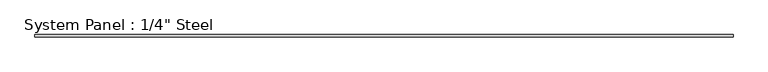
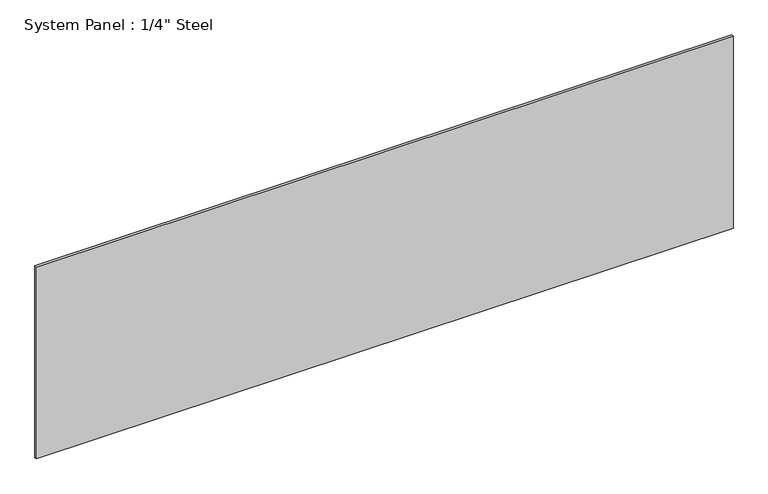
"""IFC4 building model written with IfcOpenShell, lengths in millimetres: plate geometry."""

from ifc_helpers import new_model, si_unit, origin, origin_with_axes, place, context, project, spatial, polyline, outline, extrude, source, transform, mapped, element, save


def plate_829ba8d5(model_context):
    return source(origin(), model_context, "Body", "SweptSolid", [
        extrude(outline(polyline([(916.1655423, -3.175), (-916.1655423, -3.175), (-916.1655423, 3.175), (916.1655423, 3.175), (916.1655423, -3.175)])), origin_with_axes(), (0.0, 0.0, 1.0), 533.4),
    ])


if __name__ == "__main__":
    model = new_model("IFC4")
    model_context = context("Model", 3, world=origin())
    ifc_project = project(units=[si_unit("LENGTHUNIT", "METRE", prefix="MILLI")], contexts=[model_context])
    site = spatial("IfcSite", under=ifc_project)
    building = spatial("IfcBuilding", under=site)
    placement = place(None, origin())
    plate_shape = plate_829ba8d5(model_context)
    element("IfcPlate", 1, ObjectType="System Panel : 1/4\" Steel", at=placement, inside=building, context=model_context, shape_type="MappedRepresentation", body=[
        mapped(plate_shape, transform((0.0, 0.0, 0.0), x_axis=(1.0, 0.0, 0.0), y_axis=(0.0, 1.0, 0.0), z_axis=(0.0, 0.0, 1.0))),
    ])
    save(model, "model.ifc")
